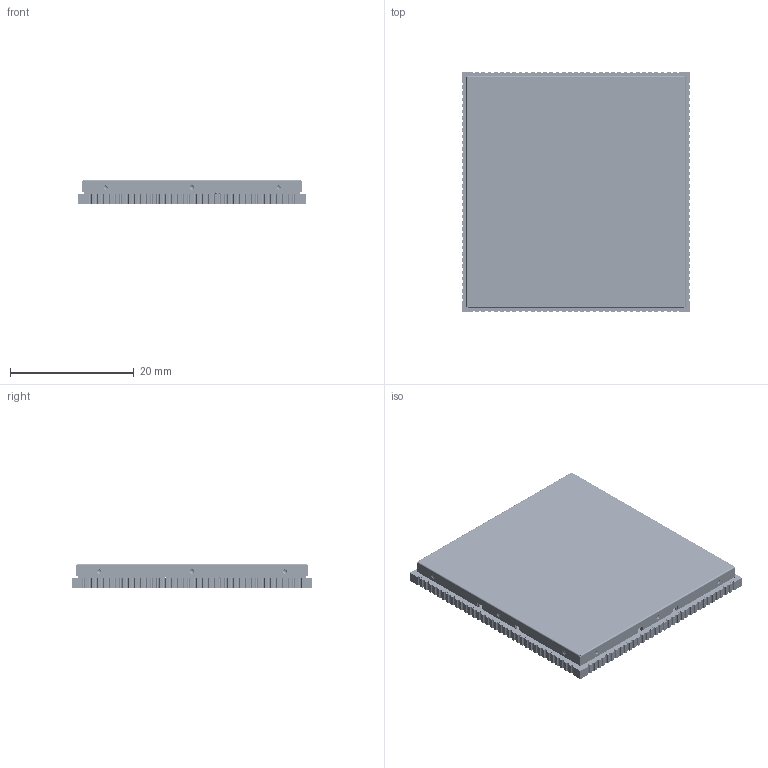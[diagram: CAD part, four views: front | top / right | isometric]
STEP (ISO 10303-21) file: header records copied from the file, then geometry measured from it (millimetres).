
FILE_DESCRIPTION((''),'2;1');
FILE_NAME('MYC-YT153MX_V10-20251208_ASM','2025-12-12T10:13:02',('MYIR'),(''),'CREO PARAMETRIC BY PTC INC, 2023073','CREO PARAMETRIC BY PTC INC, 2023073','');
FILE_SCHEMA(('AUTOMOTIVE_DESIGN { 1 0 10303 214 1 1 1 1 }'));
Products named in the file (51): MYC-YT153MX_V10-20251208; C0201; 20103-00140; 20301-00186; R0402; 20301-81208; 20401-00128; 20401-00094; 20401-00108; 20701-80080; 20301-81173; 20102-00213; 20103-00139; R0201; 20301-00326; 20301-81209; 20301-80515; 20301-00360; 20102-00186; 20401-00103; 20401-00107; 20401-00109; 20401-00104; 20401-00111; 20401-80385; C0603; 20401-80101; 20501-00064; 20301-80519; 20301-00346; 20301-80522; 20301-80670; 20301-80673; 20301-80528; 20301-00314; 20301-80671; 20301-80580; 20301-80675; 20103-80335; 20102-00022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
Assembly tree (256 placements, depth 3):
  MYC-YT153MX_V10-20251208_ASM
    MYC-YT153MX_V10-20251208
    C0201  x2
    20103-00140
    20301-00186  x2
    R0402
    20301-81208
    20401-00128  x2
    20401-00094  x3
    20401-00108  x2
    20701-80080
    20301-81173
    20102-00213
    20103-00139
    R0201  x35
    20301-00326  x2
    20301-81209
    20301-80515
    20301-00360
    20102-00186
    20401-00103  x8
    20401-00107  x7
    20401-00109  x39
    20401-00104  x13
    20401-00111  x30
    20401-80385  x6
    C0603
    20401-80101  x2
    20501-00064  x5
    20301-80519  x7
    20301-00346
    20301-80522  x3
    20301-80670  x31
    20301-80673  x12
    20301-80528
    20301-00314  x3
    20301-80671  x4
    20301-80580  x4
    20301-80675  x3
    20103-80335
    20102-00022
    20101-00111
    20103-00137  x4
    20115-80096
    20901-00039
    20401-00077  x2
    20901-00018
    MYC-YT153MX_V10-20251208-TOP
    MYC-6UL-SHIELD-A-V10_ASM
      MYC-6UL-SHIELD-FRAME-A-V10
      MYC-6UL-SHIELD-COVER-A-V10
Bounding box: 37 x 39 x 3.85 mm (x, y, z)
Volume: 3179.2 mm3; surface area: 9238.8 mm2
Topology: 254 solids, 254 shells, 6669 faces, 23238 edges, 17365 vertices
Faces by surface type: plane 5382, sphere 894, cylinder 393
Entity records: 214537 total; most frequent: DIRECTION 28974, CARTESIAN_POINT 28930, ORIENTED_EDGE 19968, PRESENTATION_STYLE_ASSIGNMENT 11750, STYLED_ITEM 11599, CURVE_STYLE 11246, VECTOR 10974, LINE 10974
